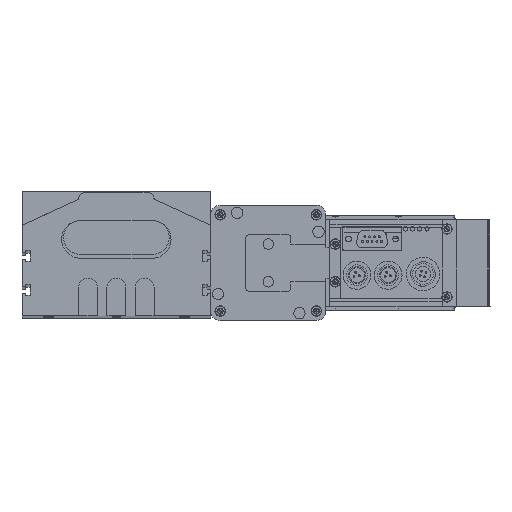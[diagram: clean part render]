
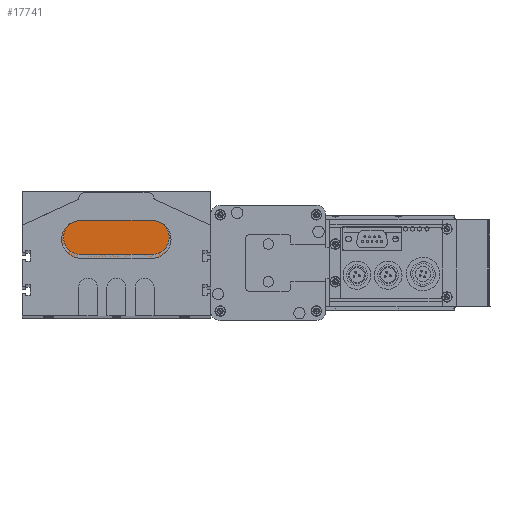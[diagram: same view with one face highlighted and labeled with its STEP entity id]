
A CAD part, top view. The second image highlights one B-rep face of the part: STEP entity #17741.
In plain terms, the highlighted planar face has unit normal (0, 0, 1).
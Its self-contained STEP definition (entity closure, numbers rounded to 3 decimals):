
#17332 = VERTEX_POINT ( 'NONE', #29938 ) ;
#17334 = VERTEX_POINT ( 'NONE', #29936 ) ;
#17342 = EDGE_CURVE ( 'NONE', #17332, #17334, #26400, .T. ) ;
#17551 = EDGE_CURVE ( 'NONE', #17334, #17579, #30628, .T. ) ;
#17557 = EDGE_CURVE ( 'NONE', #17579, #17577, #30624, .T. ) ;
#17562 = VERTEX_POINT ( 'NONE', #30588 ) ;
#17567 = ORIENTED_EDGE ( 'NONE', *, *, #17557, .T. ) ;
#17577 = VERTEX_POINT ( 'NONE', #30635 ) ;
#17579 = VERTEX_POINT ( 'NONE', #30637 ) ;
#17586 = EDGE_CURVE ( 'NONE', #17562, #17332, #30636, .T. ) ;
#17593 = EDGE_CURVE ( 'NONE', #17577, #17562, #30675, .T. ) ;
#17636 = EDGE_LOOP ( 'NONE', ( #17738, #17737, #17739, #17567, #17729 ) ) ;
#17729 = ORIENTED_EDGE ( 'NONE', *, *, #17593, .T. ) ;
#17737 = ORIENTED_EDGE ( 'NONE', *, *, #17342, .T. ) ;
#17738 = ORIENTED_EDGE ( 'NONE', *, *, #17586, .T. ) ;
#17739 = ORIENTED_EDGE ( 'NONE', *, *, #17551, .T. ) ;
#17741 = ADVANCED_FACE ( 'NONE', ( #31051 ), #31063, .T. ) ;
#26400 = CIRCLE ( 'NONE', #26402, 10. ) ;
#26402 = AXIS2_PLACEMENT_3D ( 'NONE', #26414, #26430, #26411 ) ;
#26411 = DIRECTION ( 'NONE',  ( 1., 0., 0. ) ) ;
#26414 = CARTESIAN_POINT ( 'NONE',  ( 0., 10., 10. ) ) ;
#26430 = DIRECTION ( 'NONE',  ( 0., 0., 1. ) ) ;
#29936 = CARTESIAN_POINT ( 'NONE',  ( 0., 0., 10. ) ) ;
#29938 = CARTESIAN_POINT ( 'NONE',  ( -10., 10., 10. ) ) ;
#30588 = CARTESIAN_POINT ( 'NONE',  ( 0., 20., 10. ) ) ;
#30606 = DIRECTION ( 'NONE',  ( -1., 0., 0. ) ) ;
#30607 = DIRECTION ( 'NONE',  ( 0., 0., 1. ) ) ;
#30608 = CARTESIAN_POINT ( 'NONE',  ( 38., 10., 10. ) ) ;
#30609 = AXIS2_PLACEMENT_3D ( 'NONE', #30608, #30607, #30606 ) ;
#30624 = CIRCLE ( 'NONE', #30609, 10. ) ;
#30625 = DIRECTION ( 'NONE',  ( 1., 0., 0. ) ) ;
#30626 = VECTOR ( 'NONE', #30625, 1000. ) ;
#30627 = CARTESIAN_POINT ( 'NONE',  ( 0., 0., 10. ) ) ;
#30628 = LINE ( 'NONE', #30627, #30626 ) ;
#30635 = CARTESIAN_POINT ( 'NONE',  ( 38., 20., 10. ) ) ;
#30636 = CIRCLE ( 'NONE', #30704, 10. ) ;
#30637 = CARTESIAN_POINT ( 'NONE',  ( 38., 0., 10. ) ) ;
#30672 = DIRECTION ( 'NONE',  ( -1., 0., 0. ) ) ;
#30673 = VECTOR ( 'NONE', #30672, 1000. ) ;
#30674 = CARTESIAN_POINT ( 'NONE',  ( 0., 20., 10. ) ) ;
#30675 = LINE ( 'NONE', #30674, #30673 ) ;
#30692 = DIRECTION ( 'NONE',  ( 1., 0., 0. ) ) ;
#30693 = DIRECTION ( 'NONE',  ( 0., 0., 1. ) ) ;
#30702 = CARTESIAN_POINT ( 'NONE',  ( 0., 10., 10. ) ) ;
#30704 = AXIS2_PLACEMENT_3D ( 'NONE', #30702, #30693, #30692 ) ;
#31031 = DIRECTION ( 'NONE',  ( 1., 0., 0. ) ) ;
#31036 = DIRECTION ( 'NONE',  ( 0., 0., 1. ) ) ;
#31037 = CARTESIAN_POINT ( 'NONE',  ( 0., 10., 10. ) ) ;
#31044 = AXIS2_PLACEMENT_3D ( 'NONE', #31037, #31036, #31031 ) ;
#31051 = FACE_OUTER_BOUND ( 'NONE', #17636, .T. ) ;
#31063 = PLANE ( 'NONE',  #31044 ) ;
